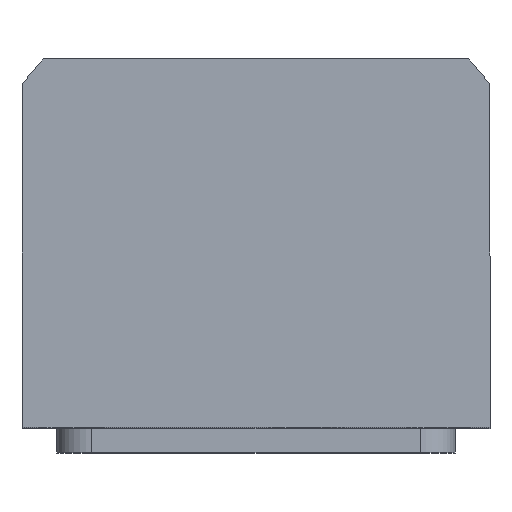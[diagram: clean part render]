
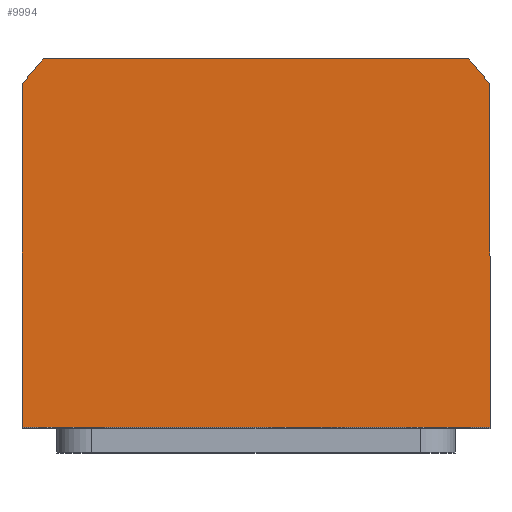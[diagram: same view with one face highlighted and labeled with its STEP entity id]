
A CAD part, top view. The second image highlights one B-rep face of the part: STEP entity #9994.
In plain terms, the highlighted planar face has unit normal (0, 0, 1).
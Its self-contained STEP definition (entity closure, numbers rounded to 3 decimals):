
#40 = CARTESIAN_POINT ( 'NONE',  ( -42.688, 40., 67.5 ) ) ;
#113 = ORIENTED_EDGE ( 'NONE', *, *, #5492, .T. ) ;
#144 = CIRCLE ( 'NONE', #6607, 58.5 ) ;
#659 = VERTEX_POINT ( 'NONE', #8008 ) ;
#938 = VECTOR ( 'NONE', #6967, 1000. ) ;
#1187 = DIRECTION ( 'NONE',  ( 1., 0., 0. ) ) ;
#1291 = CARTESIAN_POINT ( 'NONE',  ( 0., 0., 67.5 ) ) ;
#1459 = VECTOR ( 'NONE', #8771, 1000. ) ;
#2154 = PLANE ( 'NONE',  #10762 ) ;
#2545 = LINE ( 'NONE', #5371, #1459 ) ;
#2715 = CARTESIAN_POINT ( 'NONE',  ( -47., 34.832, 67.5 ) ) ;
#2766 = ORIENTED_EDGE ( 'NONE', *, *, #11777, .T. ) ;
#3055 = VECTOR ( 'NONE', #9526, 1000. ) ;
#3206 = DIRECTION ( 'NONE',  ( 1., 0., 0. ) ) ;
#3304 = CARTESIAN_POINT ( 'NONE',  ( 0., 0., 67.5 ) ) ;
#3322 = EDGE_LOOP ( 'NONE', ( #2766, #7955, #113, #7758, #13832, #4276 ) ) ;
#3411 = CARTESIAN_POINT ( 'NONE',  ( 47., -34., 67.5 ) ) ;
#3618 = CARTESIAN_POINT ( 'NONE',  ( 47., 34.832, 67.5 ) ) ;
#4020 = EDGE_CURVE ( 'NONE', #12952, #9644, #2545, .T. ) ;
#4270 = CARTESIAN_POINT ( 'NONE',  ( -47., -34., 67.5 ) ) ;
#4276 = ORIENTED_EDGE ( 'NONE', *, *, #6906, .T. ) ;
#4322 = CIRCLE ( 'NONE', #13968, 58.5 ) ;
#5119 = FACE_OUTER_BOUND ( 'NONE', #3322, .T. ) ;
#5371 = CARTESIAN_POINT ( 'NONE',  ( -42.688, 40., 67.5 ) ) ;
#5492 = EDGE_CURVE ( 'NONE', #659, #12952, #4322, .T. ) ;
#5637 = DIRECTION ( 'NONE',  ( 0., 0., 1. ) ) ;
#5753 = LINE ( 'NONE', #3618, #3055 ) ;
#6411 = EDGE_CURVE ( 'NONE', #11121, #659, #5753, .T. ) ;
#6555 = VERTEX_POINT ( 'NONE', #2715 ) ;
#6607 = AXIS2_PLACEMENT_3D ( 'NONE', #1291, #7076, #1187 ) ;
#6824 = VECTOR ( 'NONE', #14587, 1000. ) ;
#6906 = EDGE_CURVE ( 'NONE', #6555, #7272, #9709, .T. ) ;
#6967 = DIRECTION ( 'NONE',  ( 1., 0., 0. ) ) ;
#7038 = CARTESIAN_POINT ( 'NONE',  ( 42.688, 40., 67.5 ) ) ;
#7076 = DIRECTION ( 'NONE',  ( 0., 0., 1. ) ) ;
#7096 = EDGE_CURVE ( 'NONE', #9644, #6555, #144, .T. ) ;
#7272 = VERTEX_POINT ( 'NONE', #10647 ) ;
#7758 = ORIENTED_EDGE ( 'NONE', *, *, #4020, .T. ) ;
#7955 = ORIENTED_EDGE ( 'NONE', *, *, #6411, .T. ) ;
#8008 = CARTESIAN_POINT ( 'NONE',  ( 47., 34.832, 67.5 ) ) ;
#8771 = DIRECTION ( 'NONE',  ( -1., 0., 0. ) ) ;
#9526 = DIRECTION ( 'NONE',  ( 0., 1., 0. ) ) ;
#9644 = VERTEX_POINT ( 'NONE', #40 ) ;
#9709 = LINE ( 'NONE', #4270, #6824 ) ;
#9973 = LINE ( 'NONE', #12835, #938 ) ;
#9994 = ADVANCED_FACE ( 'NONE', ( #5119 ), #2154, .T. ) ;
#10647 = CARTESIAN_POINT ( 'NONE',  ( -47., -34., 67.5 ) ) ;
#10762 = AXIS2_PLACEMENT_3D ( 'NONE', #12590, #5637, #13747 ) ;
#11121 = VERTEX_POINT ( 'NONE', #3411 ) ;
#11277 = DIRECTION ( 'NONE',  ( 0., 0., 1. ) ) ;
#11777 = EDGE_CURVE ( 'NONE', #7272, #11121, #9973, .T. ) ;
#12590 = CARTESIAN_POINT ( 'NONE',  ( 0., 0., 67.5 ) ) ;
#12835 = CARTESIAN_POINT ( 'NONE',  ( 47., -34., 67.5 ) ) ;
#12952 = VERTEX_POINT ( 'NONE', #7038 ) ;
#13747 = DIRECTION ( 'NONE',  ( 1., 0., 0. ) ) ;
#13832 = ORIENTED_EDGE ( 'NONE', *, *, #7096, .T. ) ;
#13968 = AXIS2_PLACEMENT_3D ( 'NONE', #3304, #11277, #3206 ) ;
#14587 = DIRECTION ( 'NONE',  ( 0., -1., 0. ) ) ;
